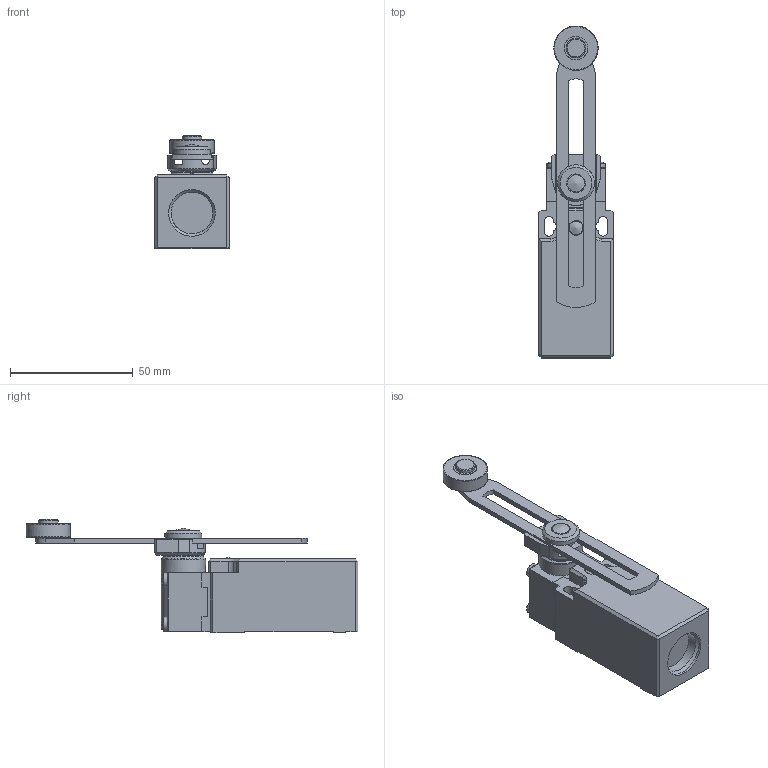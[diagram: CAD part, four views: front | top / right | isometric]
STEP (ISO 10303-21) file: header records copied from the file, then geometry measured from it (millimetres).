
FILE_DESCRIPTION(/* description */ (''),/* implementation_level */ '2;1');
FILE_NAME(/* name */ 'FC-004',/* time_stamp */ '2024-11-08T12:37:30+01:00',/* author */ (''),/* organization */ (''),/* preprocessor_version */ 'ST-DEVELOPER v16.5',/* originating_system */ 'Rhino 7.37',/* authorisation */ '');
FILE_SCHEMA (('AUTOMOTIVE_DESIGN'));
Length unit declared in the file: millimetre
Products named in the file (1): Document
Bounding box: 30.3 x 135 x 46 mm (x, y, z)
Volume: 68351.6 mm3; surface area: 17827.9 mm2
Topology: 3 solids, 3 shells, 200 faces, 502 edges, 319 vertices
Faces by surface type: plane 132, cylinder 45, bspline 23
Full cylindrical faces by diameter (mm): 5.6 x5, 6 x3, 7 x1, 7.6 x1, 8 x1, 9.5 x2, 15 x2, 17 x1, 18 x2, 19 x1
Entity records: 6615 total; most frequent: CARTESIAN_POINT 3043, ORIENTED_EDGE 996, EDGE_CURVE 498, B_SPLINE_CURVE_WITH_KNOTS 362, VERTEX_POINT 319, EDGE_LOOP 221, ADVANCED_FACE 200, FACE_OUTER_BOUND 200
